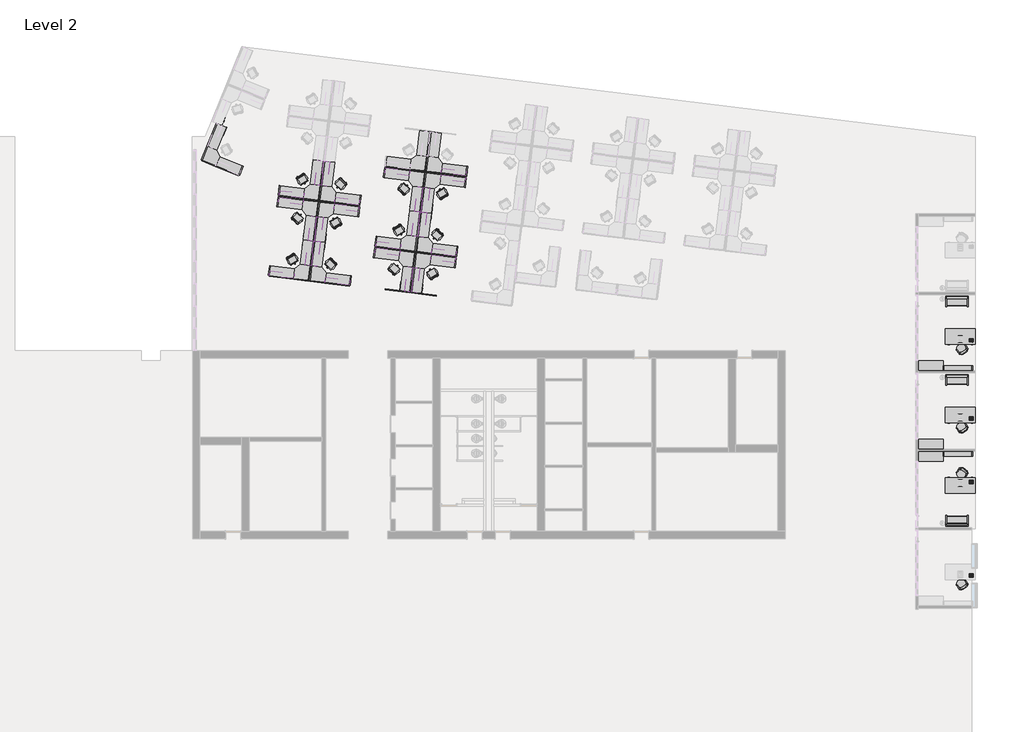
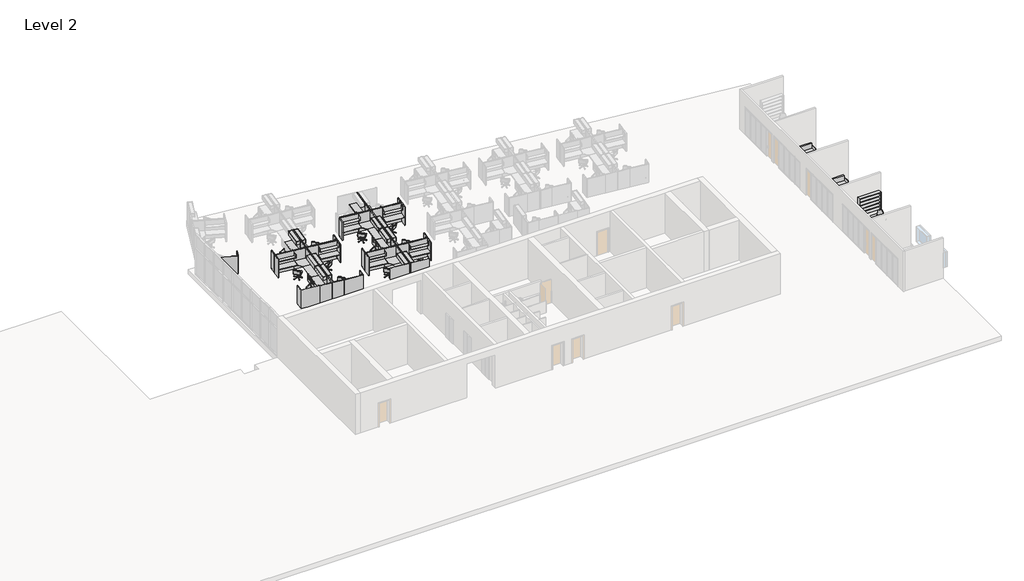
# One storey, part 5 of 7: 95 furniture elements, 4 proxies.
"""IFC4 building model written with IfcOpenShell, lengths in millimetres."""

from ifc_helpers import new_model, si_unit, origin, place, context, project, spatial, transform, mapped, element, save
from components import phone_phone_5230e7aa, phone_phone_b8b7aebd, chair_executive_chair_executive_8d69e98c, chair_executive_chair_executive_a5be4872, chair_task_arms_chair_task_arms_3b363349, chair_task_arms_chair_task_arms_8395c10b, furniture_894c625b, furniture_2f1724fb, furniture_665347ce, furniture_3ceed070, furniture_00cef8f1, furniture_8d825890, furniture_2fc54265, furniture_91cd4dc0, overhead_shelving_module_overhead_shelving_module_3ee17988, overhead_shelving_module_overhead_shelving_module_7dcda1b9, overhead_storage_module_overhead_storage_module_326dc690, overhead_storage_module_overhead_storage_module_bea9f75f, furniture_6f8441ab, furniture_6d145fab, furniture_22419f35, furniture_8ec9ccbf, furniture_0333d240, furniture_4718bb14, furniture_45e3acac, furniture_7b33082a

model = new_model("IFC4")

# Units and contexts
model_context = context("Model", 3, world=origin())
ifc_project = project(units=[si_unit("LENGTHUNIT", "METRE", prefix="MILLI")], contexts=[model_context])

# Site, building, storey
site = spatial("IfcSite", under=ifc_project)
building = spatial("IfcBuilding", under=site)
storey = spatial("IfcBuildingStorey", under=building, Name="Level 2", Elevation=3657.6)

# Proxies
placement = place(None, origin())
phone_phone_shape = phone_phone_5230e7aa(model_context)
element("IfcBuildingElementProxy", 1, Name="Phone : Phone", ObjectType="Phone : Phone", at=placement, inside=storey, context=model_context, shape_type="MappedRepresentation", body=[
    mapped(phone_phone_shape, transform((15049.386755, -11543.7561102, 4419.6), x_axis=(1.0, 0.0, 0.0), y_axis=(0.0, 1.0, 0.0), z_axis=(0.0, 0.0, 1.0))),
])
phone_phone_2_shape = phone_phone_b8b7aebd(model_context)
element("IfcBuildingElementProxy", 2, Name="Phone : Phone", ObjectType="Phone : Phone", at=placement, inside=storey, context=model_context, shape_type="MappedRepresentation", body=[
    mapped(phone_phone_2_shape, transform((15049.386755, -2377.1766865, 4419.6), x_axis=(1.0, 0.0, 0.0), y_axis=(0.0, 1.0, 0.0), z_axis=(0.0, 0.0, 1.0))),
])
element("IfcBuildingElementProxy", 3, Name="Phone : Phone", ObjectType="Phone : Phone", at=placement, inside=storey, context=model_context, shape_type="MappedRepresentation", body=[
    mapped(phone_phone_2_shape, transform((15049.386755, -7211.6809871, 4419.6), x_axis=(1.0, 0.0, 0.0), y_axis=(0.0, 1.0, 0.0), z_axis=(0.0, 0.0, 1.0))),
])
element("IfcBuildingElementProxy", 4, Name="Phone : Phone", ObjectType="Phone : Phone", at=placement, inside=storey, context=model_context, shape_type="MappedRepresentation", body=[
    mapped(phone_phone_2_shape, transform((15049.386755, -16880.6895882, 4419.6), x_axis=(1.0, 0.0, 0.0), y_axis=(0.0, 1.0, 0.0), z_axis=(0.0, 0.0, 1.0))),
])

# Furniture
chair_executive_chair_executive_shape = chair_executive_chair_executive_8d69e98c(model_context)
element("IfcFurniture", 5, ObjectType="Chair-Executive : Chair-Executive", at=placement, inside=storey, context=model_context, shape_type="MappedRepresentation", body=[
    mapped(chair_executive_chair_executive_shape, transform((14331.1988374, -10895.4183478, 3657.6), x_axis=(-0.8386705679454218, 0.5446390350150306, 0.0), y_axis=(-0.5446390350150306, -0.8386705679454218, 0.0), z_axis=(0.0, 0.0, 1.0))),
])
chair_executive_chair_executive_2_shape = chair_executive_chair_executive_a5be4872(model_context)
element("IfcFurniture", 6, ObjectType="Chair-Executive : Chair-Executive", at=placement, inside=storey, context=model_context, shape_type="MappedRepresentation", body=[
    mapped(chair_executive_chair_executive_2_shape, transform((14331.1988374, -3025.5144489, 3657.6), x_axis=(-0.8386705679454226, -0.5446390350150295, 0.0), y_axis=(0.5446390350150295, -0.8386705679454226, 0.0), z_axis=(0.0, 0.0, 1.0))),
])
element("IfcFurniture", 7, ObjectType="Chair-Executive : Chair-Executive", at=placement, inside=storey, context=model_context, shape_type="MappedRepresentation", body=[
    mapped(chair_executive_chair_executive_2_shape, transform((14331.1988374, -7860.0187495, 3657.6), x_axis=(-0.8386705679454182, -0.5446390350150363, 0.0), y_axis=(0.5446390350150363, -0.8386705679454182, 0.0), z_axis=(0.0, 0.0, 1.0))),
])
element("IfcFurniture", 8, ObjectType="Chair-Executive : Chair-Executive", at=placement, inside=storey, context=model_context, shape_type="MappedRepresentation", body=[
    mapped(chair_executive_chair_executive_2_shape, transform((14331.1988374, -17529.0273506, 3657.6), x_axis=(-0.8386705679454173, -0.5446390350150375, 0.0), y_axis=(0.5446390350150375, -0.8386705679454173, 0.0), z_axis=(0.0, 0.0, 1.0))),
])
chair_task_arms_chair_task_arms_shape = chair_task_arms_chair_task_arms_3b363349(model_context)
element("IfcFurniture", 9, ObjectType="Chair-Task Arms : Chair-Task Arms", at=placement, inside=storey, context=model_context, shape_type="MappedRepresentation", body=[
    mapped(chair_task_arms_chair_task_arms_shape, transform((-20294.5435692, 6809.0079878, 3657.6), x_axis=(0.719339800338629, -0.6946583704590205, 0.0), y_axis=(0.6946583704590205, 0.719339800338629, 0.0), z_axis=(0.0, 0.0, 1.0))),
])
element("IfcFurniture", 10, ObjectType="Chair-Task Arms : Chair-Task Arms", at=placement, inside=storey, context=model_context, shape_type="MappedRepresentation", body=[
    mapped(chair_task_arms_chair_task_arms_shape, transform((-23959.1336884, 6961.7514569, 3657.6), x_axis=(-0.7193398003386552, 0.6946583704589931, 0.0), y_axis=(-0.6946583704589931, -0.7193398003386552, 0.0), z_axis=(0.0, 0.0, 1.0))),
])
element("IfcFurniture", 11, ObjectType="Chair-Task Arms : Chair-Task Arms", at=placement, inside=storey, context=model_context, shape_type="MappedRepresentation", body=[
    mapped(chair_task_arms_chair_task_arms_shape, transform((-17997.8622143, 3824.2688972, 3657.6), x_axis=(-0.7193398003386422, 0.6946583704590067, 0.0), y_axis=(-0.6946583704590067, -0.7193398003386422, 0.0), z_axis=(0.0, 0.0, 1.0))),
])
element("IfcFurniture", 12, ObjectType="Chair-Task Arms : Chair-Task Arms", at=placement, inside=storey, context=model_context, shape_type="MappedRepresentation", body=[
    mapped(chair_task_arms_chair_task_arms_shape, transform((-24565.8480276, 2020.4596955, 3657.6), x_axis=(-0.7193398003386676, 0.6946583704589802, 0.0), y_axis=(-0.6946583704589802, -0.7193398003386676, 0.0), z_axis=(0.0, 0.0, 1.0))),
])
element("IfcFurniture", 13, ObjectType="Chair-Task Arms : Chair-Task Arms", at=placement, inside=storey, context=model_context, shape_type="MappedRepresentation", body=[
    mapped(chair_task_arms_chair_task_arms_shape, transform((-20901.2579084, 1867.7162265, 3657.6), x_axis=(0.7193398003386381, -0.694658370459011, 0.0), y_axis=(0.694658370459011, 0.7193398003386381, 0.0), z_axis=(0.0, 0.0, 1.0))),
])
element("IfcFurniture", 14, ObjectType="Chair-Task Arms : Chair-Task Arms", at=placement, inside=storey, context=model_context, shape_type="MappedRepresentation", body=[
    mapped(chair_task_arms_chair_task_arms_shape, transform((-26862.5293825, 5005.1987861, 3657.6), x_axis=(0.7193398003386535, -0.6946583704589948, 0.0), y_axis=(0.6946583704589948, 0.7193398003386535, 0.0), z_axis=(0.0, 0.0, 1.0))),
])
chair_task_arms_chair_task_arms_2_shape = chair_task_arms_chair_task_arms_8395c10b(model_context)
element("IfcFurniture", 15, ObjectType="Chair-Task Arms : Chair-Task Arms", at=placement, inside=storey, context=model_context, shape_type="MappedRepresentation", body=[
    mapped(chair_task_arms_chair_task_arms_2_shape, transform((-17670.9359707, 6486.8694808, 3657.6), x_axis=(-0.866025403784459, -0.49999999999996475, 0.0), y_axis=(0.49999999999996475, -0.866025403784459, 0.0), z_axis=(0.0, 0.0, 1.0))),
])
element("IfcFurniture", 16, ObjectType="Chair-Task Arms : Chair-Task Arms", at=placement, inside=storey, context=model_context, shape_type="MappedRepresentation", body=[
    mapped(chair_task_arms_chair_task_arms_2_shape, transform((-20621.4698127, 4146.4074042, 3657.6), x_axis=(0.8660254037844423, 0.4999999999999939, 0.0), y_axis=(-0.4999999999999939, 0.8660254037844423, 0.0), z_axis=(0.0, 0.0, 1.0))),
])
element("IfcFurniture", 17, ObjectType="Chair-Task Arms : Chair-Task Arms", at=placement, inside=storey, context=model_context, shape_type="MappedRepresentation", body=[
    mapped(chair_task_arms_chair_task_arms_2_shape, transform((-24238.921784, 4683.0602792, 3657.6), x_axis=(-0.8660254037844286, -0.5000000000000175, 0.0), y_axis=(0.5000000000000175, -0.8660254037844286, 0.0), z_axis=(0.0, 0.0, 1.0))),
])
element("IfcFurniture", 18, ObjectType="Chair-Task Arms : Chair-Task Arms", at=placement, inside=storey, context=model_context, shape_type="MappedRepresentation", body=[
    mapped(chair_task_arms_chair_task_arms_2_shape, transform((-18277.6503099, 1545.5777195, 3657.6), x_axis=(-0.8660254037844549, -0.4999999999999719, 0.0), y_axis=(0.4999999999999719, -0.8660254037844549, 0.0), z_axis=(0.0, 0.0, 1.0))),
])
element("IfcFurniture", 19, ObjectType="Chair-Task Arms : Chair-Task Arms", at=placement, inside=storey, context=model_context, shape_type="MappedRepresentation", body=[
    mapped(chair_task_arms_chair_task_arms_2_shape, transform((-26582.7412868, 7283.8899638, 3657.6), x_axis=(0.8660254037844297, 0.5000000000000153, 0.0), y_axis=(-0.5000000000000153, 0.8660254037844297, 0.0), z_axis=(0.0, 0.0, 1.0))),
])
element("IfcFurniture", 20, ObjectType="Chair-Task Arms : Chair-Task Arms", at=placement, inside=storey, context=model_context, shape_type="MappedRepresentation", body=[
    mapped(chair_task_arms_chair_task_arms_2_shape, transform((-27189.455626, 2342.5982025, 3657.6), x_axis=(0.8660254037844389, 0.49999999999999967, 0.0), y_axis=(-0.49999999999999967, 0.8660254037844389, 0.0), z_axis=(0.0, 0.0, 1.0))),
])
furniture_shape = furniture_894c625b(model_context)
element("IfcFurniture", 21, ObjectType="Credenza : 60\" x 24\"", at=placement, inside=storey, context=model_context, shape_type="MappedRepresentation", body=[
    mapped(furniture_shape, transform((12221.5111465, -4173.1445759, 3657.6), x_axis=(1.0, 0.0, 0.0), y_axis=(0.0, 1.0, 0.0), z_axis=(0.0, 0.0, 1.0))),
])
element("IfcFurniture", 22, ObjectType="Credenza : 60\" x 24\"", at=placement, inside=storey, context=model_context, shape_type="MappedRepresentation", body=[
    mapped(furniture_shape, transform((12221.5111465, -9007.6488765, 3657.6), x_axis=(1.0, 0.0, 0.0), y_axis=(0.0, 1.0, 0.0), z_axis=(0.0, 0.0, 1.0))),
])
furniture_2_shape = furniture_2f1724fb(model_context)
element("IfcFurniture", 23, ObjectType="Credenza : 60\" x 24\"", at=placement, inside=storey, context=model_context, shape_type="MappedRepresentation", body=[
    mapped(furniture_2_shape, transform((12221.5111465, -9747.7882208, 3657.6), x_axis=(1.0, 0.0, 0.0), y_axis=(0.0, 1.0, 0.0), z_axis=(0.0, 0.0, 1.0))),
])
furniture_3_shape = furniture_665347ce(model_context)
element("IfcFurniture", 24, ObjectType="Cube Panel : 24\" x 66\"", at=placement, inside=storey, context=model_context, shape_type="MappedRepresentation", body=[
    mapped(furniture_3_shape, transform((-21382.0390135, 7740.7875626, 3657.6), x_axis=(-0.12186934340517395, -0.9925461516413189, 0.0), y_axis=(0.9925461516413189, -0.12186934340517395, 0.0), z_axis=(0.0, 0.0, 1.0))),
])
element("IfcFurniture", 25, ObjectType="Cube Panel : 24\" x 66\"", at=placement, inside=storey, context=model_context, shape_type="MappedRepresentation", body=[
    mapped(furniture_3_shape, transform((-16303.6524307, 7833.7810838, 3657.6), x_axis=(0.12186934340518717, 0.9925461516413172, 0.0), y_axis=(-0.9925461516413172, 0.12186934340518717, 0.0), z_axis=(0.0, 0.0, 1.0))),
])
element("IfcFurniture", 26, ObjectType="Cube Panel : 24\" x 66\"", at=placement, inside=storey, context=model_context, shape_type="MappedRepresentation", body=[
    mapped(furniture_3_shape, transform((-22871.638244, 6029.9718821, 3657.6), x_axis=(0.12186934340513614, 0.9925461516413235, 0.0), y_axis=(-0.9925461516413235, 0.12186934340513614, 0.0), z_axis=(0.0, 0.0, 1.0))),
])
element("IfcFurniture", 27, ObjectType="Cube Panel : 24\" x 66\"", at=placement, inside=storey, context=model_context, shape_type="MappedRepresentation", body=[
    mapped(furniture_3_shape, transform((-16910.3667699, 2892.4893225, 3657.6), x_axis=(0.12186934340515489, 0.9925461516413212, 0.0), y_axis=(-0.9925461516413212, 0.12186934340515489, 0.0), z_axis=(0.0, 0.0, 1.0))),
])
element("IfcFurniture", 28, ObjectType="Cube Panel : 24\" x 66\"", at=placement, inside=storey, context=model_context, shape_type="MappedRepresentation", body=[
    mapped(furniture_3_shape, transform((-23478.3525832, 1088.6801208, 3657.6), x_axis=(0.12186934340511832, 0.9925461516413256, 0.0), y_axis=(-0.9925461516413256, 0.12186934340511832, 0.0), z_axis=(0.0, 0.0, 1.0))),
])
element("IfcFurniture", 29, ObjectType="Cube Panel : 24\" x 66\"", at=placement, inside=storey, context=model_context, shape_type="MappedRepresentation", body=[
    mapped(furniture_3_shape, transform((-21988.7533528, 2799.4958013, 3657.6), x_axis=(-0.12186934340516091, -0.9925461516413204, 0.0), y_axis=(0.9925461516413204, -0.12186934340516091, 0.0), z_axis=(0.0, 0.0, 1.0))),
])
element("IfcFurniture", 30, ObjectType="Cube Panel : 24\" x 66\"", at=placement, inside=storey, context=model_context, shape_type="MappedRepresentation", body=[
    mapped(furniture_3_shape, transform((-27950.0248269, 5936.9783609, 3657.6), x_axis=(-0.12186934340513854, -0.9925461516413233, 0.0), y_axis=(0.9925461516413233, -0.12186934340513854, 0.0), z_axis=(0.0, 0.0, 1.0))),
])
element("IfcFurniture", 31, ObjectType="Cube Panel : 24\" x 66\"", at=placement, inside=storey, context=model_context, shape_type="MappedRepresentation", body=[
    mapped(furniture_3_shape, transform((-30219.5912683, 7857.7185256, 3657.6), x_axis=(0.3785502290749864, 0.9255807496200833, 0.0), y_axis=(-0.9255807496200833, 0.3785502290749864, 0.0), z_axis=(0.0, 0.0, 1.0))),
])
furniture_4_shape = furniture_3ceed070(model_context)
element("IfcFurniture", 32, ObjectType="Cube Panel : 24\" x 66\"", at=placement, inside=storey, context=model_context, shape_type="MappedRepresentation", body=[
    mapped(furniture_4_shape, transform((-16390.3259077, 7127.8822607, 3657.6), x_axis=(-0.12186934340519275, -0.9925461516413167, 0.0), y_axis=(0.9925461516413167, -0.12186934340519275, 0.0), z_axis=(0.0, 0.0, 1.0))),
])
element("IfcFurniture", 33, ObjectType="Cube Panel : 24\" x 66\"", at=placement, inside=storey, context=model_context, shape_type="MappedRepresentation", body=[
    mapped(furniture_4_shape, transform((-21902.0798757, 3505.3946243, 3657.6), x_axis=(0.12186934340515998, 0.9925461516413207, 0.0), y_axis=(-0.9925461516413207, 0.12186934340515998, 0.0), z_axis=(0.0, 0.0, 1.0))),
])
element("IfcFurniture", 34, ObjectType="Cube Panel : 24\" x 66\"", at=placement, inside=storey, context=model_context, shape_type="MappedRepresentation", body=[
    mapped(furniture_4_shape, transform((-22958.311721, 5324.073059, 3657.6), x_axis=(-0.12186934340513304, -0.992546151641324, 0.0), y_axis=(0.992546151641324, -0.12186934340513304, 0.0), z_axis=(0.0, 0.0, 1.0))),
])
element("IfcFurniture", 35, ObjectType="Cube Panel : 24\" x 66\"", at=placement, inside=storey, context=model_context, shape_type="MappedRepresentation", body=[
    mapped(furniture_4_shape, transform((-16997.0402469, 2186.5904994, 3657.6), x_axis=(-0.12186934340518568, -0.9925461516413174, 0.0), y_axis=(0.9925461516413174, -0.12186934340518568, 0.0), z_axis=(0.0, 0.0, 1.0))),
])
element("IfcFurniture", 36, ObjectType="Cube Panel : 24\" x 66\"", at=placement, inside=storey, context=model_context, shape_type="MappedRepresentation", body=[
    mapped(furniture_4_shape, transform((-27863.3513498, 6642.8771839, 3657.6), x_axis=(0.12186934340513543, 0.9925461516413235, 0.0), y_axis=(-0.9925461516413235, 0.12186934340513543, 0.0), z_axis=(0.0, 0.0, 1.0))),
])
element("IfcFurniture", 37, ObjectType="Cube Panel : 24\" x 66\"", at=placement, inside=storey, context=model_context, shape_type="MappedRepresentation", body=[
    mapped(furniture_4_shape, transform((-28470.065689, 1701.5854226, 3657.6), x_axis=(0.12186934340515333, 0.9925461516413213, 0.0), y_axis=(-0.9925461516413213, 0.12186934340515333, 0.0), z_axis=(0.0, 0.0, 1.0))),
])
furniture_5_shape = furniture_00cef8f1(model_context)
element("IfcFurniture", 38, ObjectType="Cube Panel : 60\" x 66\"", at=placement, inside=storey, context=model_context, shape_type="MappedRepresentation", body=[
    mapped(furniture_5_shape, transform((-20562.7542243, 449.1914113, 3657.6), x_axis=(-0.9925461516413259, 0.12186934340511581, 0.0), y_axis=(-0.12186934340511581, -0.9925461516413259, 0.0), z_axis=(0.0, 0.0, 1.0))),
])
furniture_6_shape = furniture_8d825890(model_context)
element("IfcFurniture", 39, ObjectType="Cube Panel : 60\" x 66\"", at=placement, inside=storey, context=model_context, shape_type="MappedRepresentation", body=[
    mapped(furniture_6_shape, transform((-18949.2712002, 251.0806066, 3657.6), x_axis=(0.9925461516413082, -0.12186934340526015, 0.0), y_axis=(0.12186934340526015, 0.9925461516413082, 0.0), z_axis=(0.0, 0.0, 1.0))),
])
furniture_7_shape = furniture_2fc54265(model_context)
element("IfcFurniture", 40, ObjectType="Desk : 72\" x 36\"", at=placement, inside=storey, context=model_context, shape_type="MappedRepresentation", body=[
    mapped(furniture_7_shape, transform((13214.5054088, -12007.5598812, 3657.6), x_axis=(1.0, 0.0, 0.0), y_axis=(0.0, 1.0, 0.0), z_axis=(0.0, 0.0, 1.0))),
])
furniture_8_shape = furniture_91cd4dc0(model_context)
element("IfcFurniture", 41, ObjectType="Desk : 72\" x 36\"", at=placement, inside=storey, context=model_context, shape_type="MappedRepresentation", body=[
    mapped(furniture_8_shape, transform((13214.5054088, -1913.3729155, 3657.6), x_axis=(1.0, 0.0, 0.0), y_axis=(0.0, 1.0, 0.0), z_axis=(0.0, 0.0, 1.0))),
])
element("IfcFurniture", 42, ObjectType="Desk : 72\" x 36\"", at=placement, inside=storey, context=model_context, shape_type="MappedRepresentation", body=[
    mapped(furniture_8_shape, transform((13214.5054088, -6747.877216, 3657.6), x_axis=(1.0, 0.0, 0.0), y_axis=(0.0, 1.0, 0.0), z_axis=(0.0, 0.0, 1.0))),
])
overhead_shelving_module_overhead_shelving_module_shape = overhead_shelving_module_overhead_shelving_module_3ee17988(model_context)
element("IfcFurniture", 43, ObjectType="Overhead Shelving Module : Overhead Shelving Module", at=placement, inside=storey, context=model_context, shape_type="MappedRepresentation", body=[
    mapped(overhead_shelving_module_overhead_shelving_module_shape, transform((-20435.5371217, 7693.7235514, 3505.2), x_axis=(0.9925461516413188, -0.12186934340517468, 0.0), y_axis=(0.12186934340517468, 0.9925461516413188, 0.0), z_axis=(0.0, 0.0, 1.0))),
])
element("IfcFurniture", 44, ObjectType="Overhead Shelving Module : Overhead Shelving Module", at=placement, inside=storey, context=model_context, shape_type="MappedRepresentation", body=[
    mapped(overhead_shelving_module_overhead_shelving_module_shape, transform((-17250.1543225, 7880.8450949, 3505.2), x_axis=(-0.9925461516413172, 0.12186934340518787, 0.0), y_axis=(-0.12186934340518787, -0.9925461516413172, 0.0), z_axis=(0.0, 0.0, 1.0))),
])
element("IfcFurniture", 45, ObjectType="Overhead Shelving Module : Overhead Shelving Module", at=placement, inside=storey, context=model_context, shape_type="MappedRepresentation", body=[
    mapped(overhead_shelving_module_overhead_shelving_module_shape, transform((-23818.1401358, 6077.0358932, 3505.2), x_axis=(-0.9925461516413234, 0.12186934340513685, 0.0), y_axis=(-0.12186934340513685, -0.9925461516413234, 0.0), z_axis=(0.0, 0.0, 1.0))),
])
element("IfcFurniture", 46, ObjectType="Overhead Shelving Module : Overhead Shelving Module", at=placement, inside=storey, context=model_context, shape_type="MappedRepresentation", body=[
    mapped(overhead_shelving_module_overhead_shelving_module_shape, transform((-17856.8686617, 2939.5533336, 3505.2), x_axis=(-0.9925461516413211, 0.12186934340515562, 0.0), y_axis=(-0.12186934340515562, -0.9925461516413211, 0.0), z_axis=(0.0, 0.0, 1.0))),
])
element("IfcFurniture", 47, ObjectType="Overhead Shelving Module : Overhead Shelving Module", at=placement, inside=storey, context=model_context, shape_type="MappedRepresentation", body=[
    mapped(overhead_shelving_module_overhead_shelving_module_shape, transform((-24424.8544751, 1135.7441319, 3505.2), x_axis=(-0.9925461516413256, 0.12186934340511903, 0.0), y_axis=(-0.12186934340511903, -0.9925461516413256, 0.0), z_axis=(0.0, 0.0, 1.0))),
])
element("IfcFurniture", 48, ObjectType="Overhead Shelving Module : Overhead Shelving Module", at=placement, inside=storey, context=model_context, shape_type="MappedRepresentation", body=[
    mapped(overhead_shelving_module_overhead_shelving_module_shape, transform((-21042.2514609, 2752.4317901, 3505.2), x_axis=(0.9925461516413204, -0.12186934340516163, 0.0), y_axis=(0.12186934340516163, 0.9925461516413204, 0.0), z_axis=(0.0, 0.0, 1.0))),
])
element("IfcFurniture", 49, ObjectType="Overhead Shelving Module : Overhead Shelving Module", at=placement, inside=storey, context=model_context, shape_type="MappedRepresentation", body=[
    mapped(overhead_shelving_module_overhead_shelving_module_shape, transform((-27003.522935, 5889.9143497, 3505.2), x_axis=(0.9925461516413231, -0.12186934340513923, 0.0), y_axis=(0.12186934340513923, 0.9925461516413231, 0.0), z_axis=(0.0, 0.0, 1.0))),
])
overhead_shelving_module_overhead_shelving_module_2_shape = overhead_shelving_module_overhead_shelving_module_7dcda1b9(model_context)
element("IfcFurniture", 50, ObjectType="Overhead Shelving Module : Overhead Shelving Module", at=placement, inside=storey, context=model_context, shape_type="MappedRepresentation", body=[
    mapped(overhead_shelving_module_overhead_shelving_module_2_shape, transform((-17320.0984631, 7311.1957837, 3505.2), x_axis=(-0.9925461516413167, 0.12186934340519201, 0.0), y_axis=(-0.12186934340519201, -0.9925461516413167, 0.0), z_axis=(0.0, 0.0, 1.0))),
])
element("IfcFurniture", 51, ObjectType="Overhead Shelving Module : Overhead Shelving Module", at=placement, inside=storey, context=model_context, shape_type="MappedRepresentation", body=[
    mapped(overhead_shelving_module_overhead_shelving_module_2_shape, transform((-20972.3073204, 3322.0811013, 3505.2), x_axis=(0.9925461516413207, -0.12186934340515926, 0.0), y_axis=(0.12186934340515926, 0.9925461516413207, 0.0), z_axis=(0.0, 0.0, 1.0))),
])
element("IfcFurniture", 52, ObjectType="Overhead Shelving Module : Overhead Shelving Module", at=placement, inside=storey, context=model_context, shape_type="MappedRepresentation", body=[
    mapped(overhead_shelving_module_overhead_shelving_module_2_shape, transform((-23888.0842764, 5507.386582, 3505.2), x_axis=(-0.992546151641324, 0.12186934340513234, 0.0), y_axis=(-0.12186934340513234, -0.992546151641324, 0.0), z_axis=(0.0, 0.0, 1.0))),
])
element("IfcFurniture", 53, ObjectType="Overhead Shelving Module : Overhead Shelving Module", at=placement, inside=storey, context=model_context, shape_type="MappedRepresentation", body=[
    mapped(overhead_shelving_module_overhead_shelving_module_2_shape, transform((-17926.8128023, 2369.9040224, 3505.2), x_axis=(-0.9925461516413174, 0.12186934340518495, 0.0), y_axis=(-0.12186934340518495, -0.9925461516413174, 0.0), z_axis=(0.0, 0.0, 1.0))),
])
element("IfcFurniture", 54, ObjectType="Overhead Shelving Module : Overhead Shelving Module", at=placement, inside=storey, context=model_context, shape_type="MappedRepresentation", body=[
    mapped(overhead_shelving_module_overhead_shelving_module_2_shape, transform((-26933.5787945, 6459.563661, 3505.2), x_axis=(0.9925461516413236, -0.12186934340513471, 0.0), y_axis=(0.12186934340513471, 0.9925461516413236, 0.0), z_axis=(0.0, 0.0, 1.0))),
])
element("IfcFurniture", 55, ObjectType="Overhead Shelving Module : Overhead Shelving Module", at=placement, inside=storey, context=model_context, shape_type="MappedRepresentation", body=[
    mapped(overhead_shelving_module_overhead_shelving_module_2_shape, transform((-27540.2931337, 1518.2718996, 3505.2), x_axis=(0.9925461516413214, -0.12186934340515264, 0.0), y_axis=(0.12186934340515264, 0.9925461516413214, 0.0), z_axis=(0.0, 0.0, 1.0))),
])
overhead_storage_module_overhead_storage_module_shape = overhead_storage_module_overhead_storage_module_326dc690(model_context)
element("IfcFurniture", 56, ObjectType="Overhead Storage Module : Overhead Storage Module", at=placement, inside=storey, context=model_context, shape_type="MappedRepresentation", body=[
    mapped(overhead_storage_module_overhead_storage_module_shape, transform((-19357.3919537, 5951.3242965, 3657.6), x_axis=(-0.12186934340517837, -0.9925461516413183, 0.0), y_axis=(0.9925461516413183, -0.12186934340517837, 0.0), z_axis=(0.0, 0.0, 1.0))),
])
element("IfcFurniture", 57, ObjectType="Overhead Storage Module : Overhead Storage Module", at=placement, inside=storey, context=model_context, shape_type="MappedRepresentation", body=[
    mapped(overhead_storage_module_overhead_storage_module_shape, transform((-24896.2853038, 7819.4351481, 3657.6), x_axis=(0.12186934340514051, 0.992546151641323, 0.0), y_axis=(-0.992546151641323, 0.12186934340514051, 0.0), z_axis=(0.0, 0.0, 1.0))),
])
element("IfcFurniture", 58, ObjectType="Overhead Storage Module : Overhead Storage Module", at=placement, inside=storey, context=model_context, shape_type="MappedRepresentation", body=[
    mapped(overhead_storage_module_overhead_storage_module_shape, transform((-18935.0138297, 4681.9525885, 3657.6), x_axis=(0.12186934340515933, 0.9925461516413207, 0.0), y_axis=(-0.9925461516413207, 0.12186934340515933, 0.0), z_axis=(0.0, 0.0, 1.0))),
])
element("IfcFurniture", 59, ObjectType="Overhead Storage Module : Overhead Storage Module", at=placement, inside=storey, context=model_context, shape_type="MappedRepresentation", body=[
    mapped(overhead_storage_module_overhead_storage_module_shape, transform((-25502.999643, 2878.1433868, 3657.6), x_axis=(0.12186934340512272, 0.9925461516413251, 0.0), y_axis=(-0.9925461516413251, 0.12186934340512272, 0.0), z_axis=(0.0, 0.0, 1.0))),
])
element("IfcFurniture", 60, ObjectType="Overhead Storage Module : Overhead Storage Module", at=placement, inside=storey, context=model_context, shape_type="MappedRepresentation", body=[
    mapped(overhead_storage_module_overhead_storage_module_shape, transform((-19964.1062929, 1010.0325352, 3657.6), x_axis=(-0.12186934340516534, -0.99254615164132, 0.0), y_axis=(0.99254615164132, -0.12186934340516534, 0.0), z_axis=(0.0, 0.0, 1.0))),
])
element("IfcFurniture", 61, ObjectType="Overhead Storage Module : Overhead Storage Module", at=placement, inside=storey, context=model_context, shape_type="MappedRepresentation", body=[
    mapped(overhead_storage_module_overhead_storage_module_shape, transform((-25925.377767, 4147.5150948, 3657.6), x_axis=(-0.12186934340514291, -0.9925461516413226, 0.0), y_axis=(0.9925461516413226, -0.12186934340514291, 0.0), z_axis=(0.0, 0.0, 1.0))),
])
overhead_storage_module_overhead_storage_module_2_shape = overhead_storage_module_overhead_storage_module_bea9f75f(model_context)
element("IfcFurniture", 62, ObjectType="Overhead Storage Module : Overhead Storage Module", at=placement, inside=storey, context=model_context, shape_type="MappedRepresentation", body=[
    mapped(overhead_storage_module_overhead_storage_module_2_shape, transform((-18787.7426425, 5881.380156, 3657.6), x_axis=(-0.1218693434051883, -0.9925461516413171, 0.0), y_axis=(0.9925461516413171, -0.1218693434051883, 0.0), z_axis=(0.0, 0.0, 1.0))),
])
element("IfcFurniture", 63, ObjectType="Overhead Storage Module : Overhead Storage Module", at=placement, inside=storey, context=model_context, shape_type="MappedRepresentation", body=[
    mapped(overhead_storage_module_overhead_storage_module_2_shape, transform((-19504.6631409, 4751.896729, 3657.6), x_axis=(0.12186934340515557, 0.9925461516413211, 0.0), y_axis=(-0.9925461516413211, 0.12186934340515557, 0.0), z_axis=(0.0, 0.0, 1.0))),
])
element("IfcFurniture", 64, ObjectType="Overhead Storage Module : Overhead Storage Module", at=placement, inside=storey, context=model_context, shape_type="MappedRepresentation", body=[
    mapped(overhead_storage_module_overhead_storage_module_2_shape, transform((-25355.7284558, 4077.5709543, 3657.6), x_axis=(-0.12186934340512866, -0.9925461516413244, 0.0), y_axis=(0.9925461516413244, -0.12186934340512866, 0.0), z_axis=(0.0, 0.0, 1.0))),
])
element("IfcFurniture", 65, ObjectType="Overhead Storage Module : Overhead Storage Module", at=placement, inside=storey, context=model_context, shape_type="MappedRepresentation", body=[
    mapped(overhead_storage_module_overhead_storage_module_2_shape, transform((-19394.4569817, 940.0883947, 3657.6), x_axis=(-0.12186934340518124, -0.992546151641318, 0.0), y_axis=(0.992546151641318, -0.12186934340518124, 0.0), z_axis=(0.0, 0.0, 1.0))),
])
element("IfcFurniture", 66, ObjectType="Overhead Storage Module : Overhead Storage Module", at=placement, inside=storey, context=model_context, shape_type="MappedRepresentation", body=[
    mapped(overhead_storage_module_overhead_storage_module_2_shape, transform((-25465.934615, 7889.3792887, 3657.6), x_axis=(0.12186934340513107, 0.9925461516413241, 0.0), y_axis=(-0.9925461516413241, 0.12186934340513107, 0.0), z_axis=(0.0, 0.0, 1.0))),
])
element("IfcFurniture", 67, ObjectType="Overhead Storage Module : Overhead Storage Module", at=placement, inside=storey, context=model_context, shape_type="MappedRepresentation", body=[
    mapped(overhead_storage_module_overhead_storage_module_2_shape, transform((-26072.6489542, 2948.0875274, 3657.6), x_axis=(0.12186934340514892, 0.9925461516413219, 0.0), y_axis=(-0.9925461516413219, 0.12186934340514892, 0.0), z_axis=(0.0, 0.0, 1.0))),
])
furniture_9_shape = furniture_6f8441ab(model_context)
element("IfcFurniture", 68, ObjectType="Shelving : 96\" x 12\" x 84\"", at=placement, inside=storey, context=model_context, shape_type="MappedRepresentation", body=[
    mapped(furniture_9_shape, transform((13982.8554088, -9295.1685486, 3657.6), x_axis=(1.0, 0.0, 0.0), y_axis=(0.0, 1.0, 0.0), z_axis=(0.0, 0.0, 1.0))),
])
furniture_10_shape = furniture_6d145fab(model_context)
element("IfcFurniture", 69, ObjectType="Shelving : 96\" x 12\" x 84\"", at=placement, inside=storey, context=model_context, shape_type="MappedRepresentation", body=[
    mapped(furniture_10_shape, transform((13982.8554088, -4625.7642481, 3657.6), x_axis=(1.0, 0.0, 0.0), y_axis=(0.0, 1.0, 0.0), z_axis=(0.0, 0.0, 1.0))),
])
furniture_11_shape = furniture_22419f35(model_context)
element("IfcFurniture", 70, ObjectType="Sofa : 54\"", at=placement, inside=storey, context=model_context, shape_type="MappedRepresentation", body=[
    mapped(furniture_11_shape, transform((13848.0435844, -350.5126789, 3657.6), x_axis=(1.0, 0.0, 0.0), y_axis=(0.0, 1.0, 0.0), z_axis=(0.0, 0.0, 1.0))),
])
element("IfcFurniture", 71, ObjectType="Sofa : 54\"", at=placement, inside=storey, context=model_context, shape_type="MappedRepresentation", body=[
    mapped(furniture_11_shape, transform((13848.0435844, -5185.0169794, 3657.6), x_axis=(1.0, 0.0, 0.0), y_axis=(0.0, 1.0, 0.0), z_axis=(0.0, 0.0, 1.0))),
])
furniture_12_shape = furniture_8ec9ccbf(model_context)
element("IfcFurniture", 72, ObjectType="Sofa : 54\"", at=placement, inside=storey, context=model_context, shape_type="MappedRepresentation", body=[
    mapped(furniture_12_shape, transform((13848.0435844, -13570.4201178, 3657.6), x_axis=(1.0, 0.0, 0.0), y_axis=(0.0, 1.0, 0.0), z_axis=(0.0, 0.0, 1.0))),
])
furniture_13_shape = furniture_0333d240(model_context)
element("IfcFurniture", 73, ObjectType="Storage Pedestal : 20\" x 30\" x 36\"", at=placement, inside=storey, context=model_context, shape_type="MappedRepresentation", body=[
    mapped(furniture_13_shape, transform((-18629.0164744, 5353.259729, 3657.6), x_axis=(-0.12186934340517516, -0.9925461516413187, 0.0), y_axis=(0.9925461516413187, -0.12186934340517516, 0.0), z_axis=(0.0, 0.0, 1.0))),
])
element("IfcFurniture", 74, ObjectType="Storage Pedestal : 20\" x 30\" x 36\"", at=placement, inside=storey, context=model_context, shape_type="MappedRepresentation", body=[
    mapped(furniture_13_shape, transform((-19663.3893091, 5280.017156, 3657.6), x_axis=(0.12186934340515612, 0.9925461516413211, 0.0), y_axis=(-0.9925461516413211, 0.12186934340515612, 0.0), z_axis=(0.0, 0.0, 1.0))),
])
element("IfcFurniture", 75, ObjectType="Storage Pedestal : 20\" x 30\" x 36\"", at=placement, inside=storey, context=model_context, shape_type="MappedRepresentation", body=[
    mapped(furniture_13_shape, transform((-26231.3751224, 3476.2079543, 3657.6), x_axis=(0.12186934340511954, 0.9925461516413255, 0.0), y_axis=(-0.9925461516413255, 0.12186934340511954, 0.0), z_axis=(0.0, 0.0, 1.0))),
])
element("IfcFurniture", 76, ObjectType="Storage Pedestal : 20\" x 30\" x 36\"", at=placement, inside=storey, context=model_context, shape_type="MappedRepresentation", body=[
    mapped(furniture_13_shape, transform((-19235.7308136, 411.9679677, 3657.6), x_axis=(-0.12186934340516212, -0.9925461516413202, 0.0), y_axis=(0.9925461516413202, -0.12186934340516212, 0.0), z_axis=(0.0, 0.0, 1.0))),
])
element("IfcFurniture", 77, ObjectType="Storage Pedestal : 20\" x 30\" x 36\"", at=placement, inside=storey, context=model_context, shape_type="MappedRepresentation", body=[
    mapped(furniture_13_shape, transform((-25197.0022877, 3549.4505273, 3657.6), x_axis=(-0.12186934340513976, -0.9925461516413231, 0.0), y_axis=(0.9925461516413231, -0.12186934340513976, 0.0), z_axis=(0.0, 0.0, 1.0))),
])
element("IfcFurniture", 78, ObjectType="Storage Pedestal : 20\" x 30\" x 36\"", at=placement, inside=storey, context=model_context, shape_type="MappedRepresentation", body=[
    mapped(furniture_13_shape, transform((-32247.9999957, 10885.0903713, 3657.6), x_axis=(0.37855022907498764, 0.9255807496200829, 0.0), y_axis=(-0.9255807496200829, 0.37855022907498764, 0.0), z_axis=(0.0, 0.0, 1.0))),
])
furniture_14_shape = furniture_4718bb14(model_context)
element("IfcFurniture", 79, ObjectType="Storage Pedestal : 20\" x 30\" x 36\"", at=placement, inside=storey, context=model_context, shape_type="MappedRepresentation", body=[
    mapped(furniture_14_shape, transform((-19639.1671711, 5477.2906387, 3657.6), x_axis=(-0.12186934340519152, -0.9925461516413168, 0.0), y_axis=(0.9925461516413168, -0.12186934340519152, 0.0), z_axis=(0.0, 0.0, 1.0))),
])
element("IfcFurniture", 80, ObjectType="Storage Pedestal : 20\" x 30\" x 36\"", at=placement, inside=storey, context=model_context, shape_type="MappedRepresentation", body=[
    mapped(furniture_14_shape, transform((-18653.2386123, 5155.9862463, 3657.6), x_axis=(0.12186934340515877, 0.9925461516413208, 0.0), y_axis=(-0.9925461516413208, 0.12186934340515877, 0.0), z_axis=(0.0, 0.0, 1.0))),
])
element("IfcFurniture", 81, ObjectType="Storage Pedestal : 20\" x 30\" x 36\"", at=placement, inside=storey, context=model_context, shape_type="MappedRepresentation", body=[
    mapped(furniture_14_shape, transform((-26207.1529844, 3673.481437, 3657.6), x_axis=(-0.12186934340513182, -0.9925461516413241, 0.0), y_axis=(0.9925461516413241, -0.12186934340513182, 0.0), z_axis=(0.0, 0.0, 1.0))),
])
element("IfcFurniture", 82, ObjectType="Storage Pedestal : 20\" x 30\" x 36\"", at=placement, inside=storey, context=model_context, shape_type="MappedRepresentation", body=[
    mapped(furniture_14_shape, transform((-20245.8815103, 535.9988774, 3657.6), x_axis=(-0.12186934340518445, -0.9925461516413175, 0.0), y_axis=(0.9925461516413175, -0.12186934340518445, 0.0), z_axis=(0.0, 0.0, 1.0))),
])
element("IfcFurniture", 83, ObjectType="Storage Pedestal : 20\" x 30\" x 36\"", at=placement, inside=storey, context=model_context, shape_type="MappedRepresentation", body=[
    mapped(furniture_14_shape, transform((-25221.2244257, 3352.1770446, 3657.6), x_axis=(0.12186934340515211, 0.9925461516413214, 0.0), y_axis=(-0.9925461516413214, 0.12186934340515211, 0.0), z_axis=(0.0, 0.0, 1.0))),
])
element("IfcFurniture", 84, ObjectType="Storage Pedestal : 20\" x 30\" x 36\"", at=placement, inside=storey, context=model_context, shape_type="MappedRepresentation", body=[
    mapped(furniture_14_shape, transform((-32454.8782679, 11184.4362572, 3657.6), x_axis=(-0.3785502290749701, -0.9255807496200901, 0.0), y_axis=(0.9255807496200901, -0.3785502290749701, 0.0), z_axis=(0.0, 0.0, 1.0))),
])
furniture_15_shape = furniture_45e3acac(model_context)
element("IfcFurniture", 85, ObjectType="Work Station Cubicle : 96\" x 96\"", at=placement, inside=storey, context=model_context, shape_type="MappedRepresentation", body=[
    mapped(furniture_15_shape, transform((-18367.5666031, 7596.2063506, 3657.6), x_axis=(-0.12186934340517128, -0.9925461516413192, 0.0), y_axis=(0.9925461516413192, -0.12186934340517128, 0.0), z_axis=(0.0, 0.0, 1.0))),
])
element("IfcFurniture", 86, ObjectType="Work Station Cubicle : 96\" x 96\"", at=placement, inside=storey, context=model_context, shape_type="MappedRepresentation", body=[
    mapped(furniture_15_shape, transform((-19318.1248412, 7978.3622958, 3657.6), x_axis=(0.12186934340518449, 0.9925461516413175, 0.0), y_axis=(-0.9925461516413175, 0.12186934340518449, 0.0), z_axis=(0.0, 0.0, 1.0))),
])
element("IfcFurniture", 87, ObjectType="Work Station Cubicle : 96\" x 96\"", at=placement, inside=storey, context=model_context, shape_type="MappedRepresentation", body=[
    mapped(furniture_15_shape, transform((-25886.1106545, 6174.5530941, 3657.6), x_axis=(0.12186934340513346, 0.9925461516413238, 0.0), y_axis=(-0.9925461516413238, 0.12186934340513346, 0.0), z_axis=(0.0, 0.0, 1.0))),
])
element("IfcFurniture", 88, ObjectType="Work Station Cubicle : 96\" x 96\"", at=placement, inside=storey, context=model_context, shape_type="MappedRepresentation", body=[
    mapped(furniture_15_shape, transform((-19924.8391804, 3037.0705345, 3657.6), x_axis=(0.1218693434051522, 0.9925461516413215, 0.0), y_axis=(-0.9925461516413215, 0.1218693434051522, 0.0), z_axis=(0.0, 0.0, 1.0))),
])
element("IfcFurniture", 89, ObjectType="Work Station Cubicle : 96\" x 96\"", at=placement, inside=storey, context=model_context, shape_type="MappedRepresentation", body=[
    mapped(furniture_15_shape, transform((-26492.8249937, 1233.2613328, 3657.6), x_axis=(0.12186934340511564, 0.992546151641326, 0.0), y_axis=(-0.992546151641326, 0.12186934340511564, 0.0), z_axis=(0.0, 0.0, 1.0))),
])
element("IfcFurniture", 90, ObjectType="Work Station Cubicle : 96\" x 96\"", at=placement, inside=storey, context=model_context, shape_type="MappedRepresentation", body=[
    mapped(furniture_15_shape, transform((-18974.2809423, 2654.9145892, 3657.6), x_axis=(-0.12186934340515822, -0.9925461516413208, 0.0), y_axis=(0.9925461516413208, -0.12186934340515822, 0.0), z_axis=(0.0, 0.0, 1.0))),
])
element("IfcFurniture", 91, ObjectType="Work Station Cubicle : 96\" x 96\"", at=placement, inside=storey, context=model_context, shape_type="MappedRepresentation", body=[
    mapped(furniture_15_shape, transform((-24935.5524164, 5792.3971489, 3657.6), x_axis=(-0.12186934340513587, -0.9925461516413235, 0.0), y_axis=(0.9925461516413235, -0.12186934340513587, 0.0), z_axis=(0.0, 0.0, 1.0))),
])
element("IfcFurniture", 92, ObjectType="Work Station Cubicle : 96\" x 96\"", at=placement, inside=storey, context=model_context, shape_type="MappedRepresentation", body=[
    mapped(furniture_15_shape, transform((-33089.9857643, 8789.803864, 3657.6), x_axis=(0.378550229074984, 0.9255807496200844, 0.0), y_axis=(-0.9255807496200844, 0.378550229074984, 0.0), z_axis=(0.0, 0.0, 1.0))),
])
furniture_16_shape = furniture_7b33082a(model_context)
element("IfcFurniture", 93, ObjectType="Work Station Cubicle : 96\" x 96\"", at=placement, inside=storey, context=model_context, shape_type="MappedRepresentation", body=[
    mapped(furniture_16_shape, transform((-18335.4584788, 7857.706038, 3657.6), x_axis=(0.12186934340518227, 0.9925461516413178, 0.0), y_axis=(-0.9925461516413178, 0.12186934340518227, 0.0), z_axis=(0.0, 0.0, 1.0))),
])
element("IfcFurniture", 94, ObjectType="Work Station Cubicle : 96\" x 96\"", at=placement, inside=storey, context=model_context, shape_type="MappedRepresentation", body=[
    mapped(furniture_16_shape, transform((-19350.2329655, 7716.8626084, 3657.6), x_axis=(-0.12186934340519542, -0.9925461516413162, 0.0), y_axis=(0.9925461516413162, -0.12186934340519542, 0.0), z_axis=(0.0, 0.0, 1.0))),
])
element("IfcFurniture", 95, ObjectType="Work Station Cubicle : 96\" x 96\"", at=placement, inside=storey, context=model_context, shape_type="MappedRepresentation", body=[
    mapped(furniture_16_shape, transform((-18942.172818, 2916.4142767, 3657.6), x_axis=(0.12186934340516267, 0.9925461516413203, 0.0), y_axis=(-0.9925461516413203, 0.12186934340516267, 0.0), z_axis=(0.0, 0.0, 1.0))),
])
element("IfcFurniture", 96, ObjectType="Work Station Cubicle : 96\" x 96\"", at=placement, inside=storey, context=model_context, shape_type="MappedRepresentation", body=[
    mapped(furniture_16_shape, transform((-25918.2187788, 5913.0534067, 3657.6), x_axis=(-0.1218693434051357, -0.9925461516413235, 0.0), y_axis=(0.9925461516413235, -0.1218693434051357, 0.0), z_axis=(0.0, 0.0, 1.0))),
])
element("IfcFurniture", 97, ObjectType="Work Station Cubicle : 96\" x 96\"", at=placement, inside=storey, context=model_context, shape_type="MappedRepresentation", body=[
    mapped(furniture_16_shape, transform((-19956.9473047, 2775.570847, 3657.6), x_axis=(-0.12186934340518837, -0.9925461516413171, 0.0), y_axis=(0.9925461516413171, -0.12186934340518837, 0.0), z_axis=(0.0, 0.0, 1.0))),
])
element("IfcFurniture", 98, ObjectType="Work Station Cubicle : 96\" x 96\"", at=placement, inside=storey, context=model_context, shape_type="MappedRepresentation", body=[
    mapped(furniture_16_shape, transform((-24903.4442921, 6053.8968363, 3657.6), x_axis=(0.12186934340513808, 0.9925461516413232, 0.0), y_axis=(-0.9925461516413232, 0.12186934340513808, 0.0), z_axis=(0.0, 0.0, 1.0))),
])
element("IfcFurniture", 99, ObjectType="Work Station Cubicle : 96\" x 96\"", at=placement, inside=storey, context=model_context, shape_type="MappedRepresentation", body=[
    mapped(furniture_16_shape, transform((-25510.1586313, 1112.605075, 3657.6), x_axis=(0.12186934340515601, 0.992546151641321, 0.0), y_axis=(-0.992546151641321, 0.12186934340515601, 0.0), z_axis=(0.0, 0.0, 1.0))),
])

save(model, "model.ifc")
